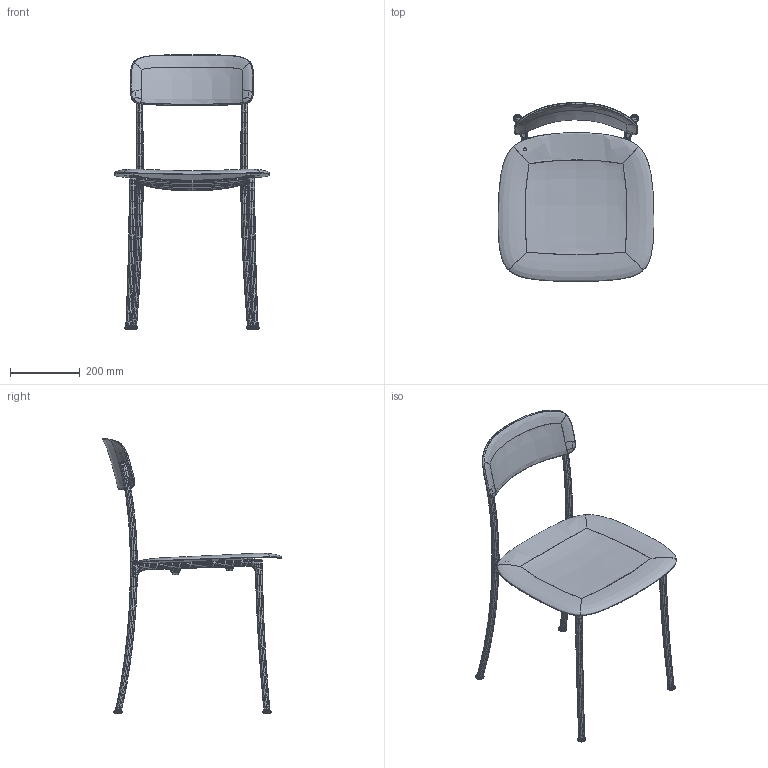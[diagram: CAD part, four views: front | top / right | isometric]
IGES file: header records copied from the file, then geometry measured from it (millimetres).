
Global section: file name: K:\Marketing\marketing\2D-3D PRODOTTI\2026_NUOVI PRODOTTI\Savoia\Savoia\Savoia.igs; native system: Rhinoceros ( Jun  9 2026 ); preprocessor: Trout Lake IGES 012 Jun  9 2026; date: 260825.124323; units: millimetre
Bounding box: 448.21 x 513.67 x 788.69 mm (x, y, z)
Surface area: 715865.4 mm2 (no closed solid volume)
Topology: 0 solids, 0 shells, 3523 faces, 21021 edges, 20875 vertices
Faces by surface type: bspline 3523
